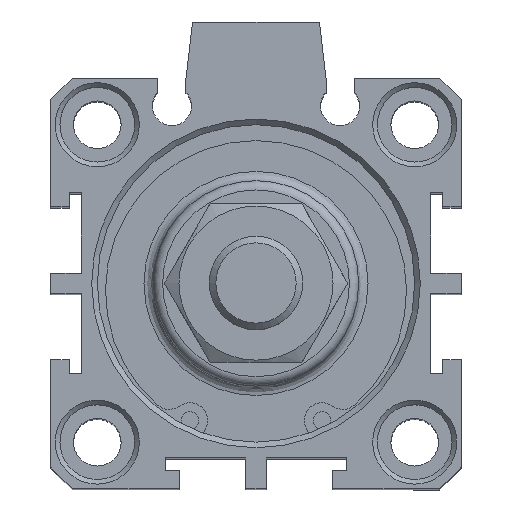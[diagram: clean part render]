
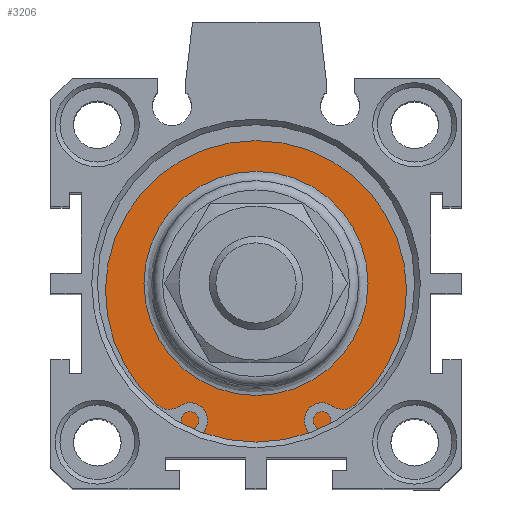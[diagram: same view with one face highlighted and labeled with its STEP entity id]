
A CAD part, top view. The second image highlights one B-rep face of the part: STEP entity #3206.
In plain terms, the highlighted planar face has unit normal (0, 0, 1).
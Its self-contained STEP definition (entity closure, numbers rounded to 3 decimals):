
#3155=CARTESIAN_POINT('',(2.273,12.598,70.8));
#3156=VERTEX_POINT('',#3155);
#3157=CARTESIAN_POINT('',(2.273,0.598,70.8));
#3158=DIRECTION('',(0.0,0.0,1.0));
#3159=DIRECTION('',(0.0,-1.0,0.0));
#3160=AXIS2_PLACEMENT_3D('',#3157,#3158,#3159);
#3161=CIRCLE('',#3160,12.);
#3162=EDGE_CURVE('',#3156,#3156,#3161,.T.);
#3187=CARTESIAN_POINT('',(2.273,14.598,70.8));
#3188=DIRECTION('',(0.0,0.0,1.0));
#3189=DIRECTION('',(1.0,0.0,0.0));
#3190=AXIS2_PLACEMENT_3D('',#3187,#3188,#3189);
#3191=PLANE('',#3190);
#3192=CARTESIAN_POINT('',(2.273,17.598,70.8));
#3193=VERTEX_POINT('',#3192);
#3194=CARTESIAN_POINT('',(2.273,0.598,70.8));
#3195=DIRECTION('',(0.0,0.0,-1.0));
#3196=DIRECTION('',(0.0,1.0,0.0));
#3197=AXIS2_PLACEMENT_3D('',#3194,#3195,#3196);
#3198=CIRCLE('',#3197,17.);
#3199=EDGE_CURVE('',#3193,#3193,#3198,.T.);
#3200=ORIENTED_EDGE('',*,*,#3199,.F.);
#3201=EDGE_LOOP('',(#3200));
#3202=FACE_OUTER_BOUND('',#3201,.T.);
#3203=ORIENTED_EDGE('',*,*,#3162,.F.);
#3204=EDGE_LOOP('',(#3203));
#3205=FACE_BOUND('',#3204,.T.);
#3206=ADVANCED_FACE('',(#3202,#3205),#3191,.T.);
